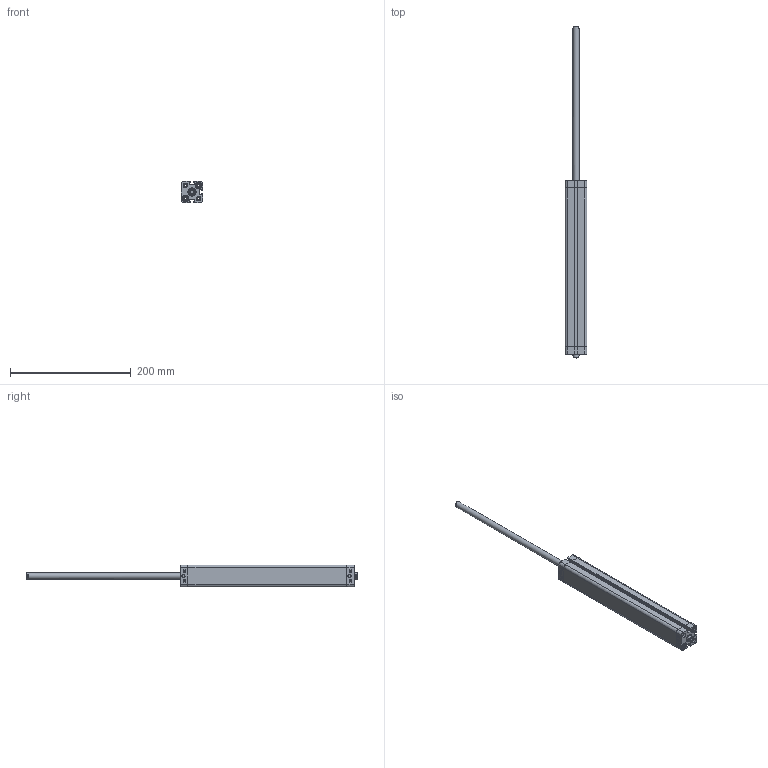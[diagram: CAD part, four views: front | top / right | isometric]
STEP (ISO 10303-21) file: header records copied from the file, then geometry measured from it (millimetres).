
FILE_DESCRIPTION(/* description */ ('Unknown'),/* implementation_level */ '2;1');
FILE_NAME(/* name */ 'ZBN 20_250',/* time_stamp */ '2025-01-27T13:58:28+01:00',/* author */ ('Unknown'),/* organization */ ('HAFNER Pneumatika Kft'),/* preprocessor_version */ 'ST-DEVELOPER v16.7',/* originating_system */ 'Solid Edge',/* authorisation */ 'Unknown');
FILE_SCHEMA (('AUTOMOTIVE_DESIGN {1 0 10303 214 3 1 1}'));
Length unit declared in the file: millimetre
Products named in the file (5): ZBN 20_250; Kit_1; Kit_2; Profilrohr; Kolbenstange
Assembly tree (5 placements, depth 2):
  ZBN 20_250
    Kit_1
    Kit_2
    Profilrohr
    Kolbenstange  x2
Bounding box: 36.3 x 550 x 36.3 mm (x, y, z)
Volume: 246248.6 mm3; surface area: 122824.8 mm2
Topology: 5 solids, 9 shells, 607 faces, 1619 edges, 1070 vertices
Faces by surface type: plane 292, cylinder 157, bspline 86, cone 56, torus 16
Full cylindrical faces by diameter (mm): 4.134 x10, 4.917 x4, 7.5 x4, 7.55 x4, 8 x8, 10 x2, 10.48 x2, 10.9 x4, 11.1 x4, 11.4 x2, 12 x2, 13.84 x2, 14 x2, 20 x3
Entity records: 21902 total; most frequent: CARTESIAN_POINT 4232, ORIENTED_EDGE 2860, DIRECTION 2646, EDGE_CURVE 1430, VERTEX_POINT 999, AXIS2_PLACEMENT_3D 903, LINE 840, VECTOR 840
